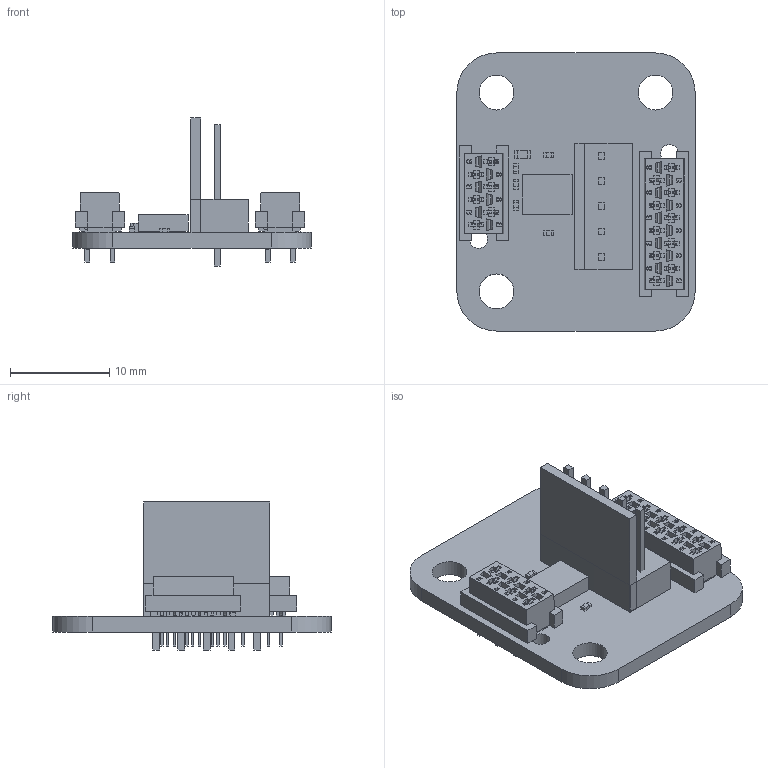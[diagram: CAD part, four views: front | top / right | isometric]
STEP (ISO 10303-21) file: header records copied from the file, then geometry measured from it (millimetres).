
FILE_DESCRIPTION(('Open CASCADE Model'),'2;1');
FILE_NAME('Open CASCADE Shape Model','2018-05-31T11:30:08',('Author'),( 'Open CASCADE'),'Open CASCADE STEP processor 6.8','Open CASCADE 6.8' ,'Unknown');
FILE_SCHEMA(('AUTOMOTIVE_DESIGN { 1 0 10303 214 1 1 1 1 }'));
Length unit declared in the file: millimetre
Products named in the file (38): PCB; Board; PoNET; 6570451072; Extruded; 6570450880; 6570450688; 6316397120; R2; 6316401344; 6316401152; R1; PoExtension; c-0215079-10-v-3d; EXT; c-0215079-06-v-3d; IC2; 6570450496; C13; 6316395392; 6316395200; C12; 6316400384; 6316400192; R3; 6316398656; R4
Assembly tree (51 placements, depth 4):
  PCB
    Board
    PoNET
      6570451072  x4
        Extruded
      6570450880
        Extruded
      6570450688
        Extruded
      6316397120
        Extruded
    R2
      6316401344
        Extruded
      6316401152  x2
        Extruded
    R1
      6316401344
        Extruded
      6316401152  x2
        Extruded
    PoExtension
      c-0215079-10-v-3d
    EXT
      c-0215079-06-v-3d
    IC2
      6570450496
        Extruded
    C13
      6316395392  x2
        Extruded
      6316395200
        Extruded
    C12
      6316400384  x2
        Extruded
      6316400192
        Extruded
    R3
      6316398656  x2
        Extruded
      6316401344
        Extruded
    R4
      6316398656  x2
        Extruded
      6316401344
        Extruded
Bounding box: 24 x 28 x 14.9 mm (x, y, z)
Volume: 1770.3 mm3; surface area: 3191.6 mm2
Topology: 29 solids, 29 shells, 1508 faces, 3998 edges, 2644 vertices
Faces by surface type: plane 1366, cylinder 142
Full cylindrical faces by diameter (mm): 0.85 x16, 1 x5, 1.8 x2, 3.5 x3
Entity records: 44848 total; most frequent: CARTESIAN_POINT 7840, ORIENTED_EDGE 7660, DIRECTION 7066, EDGE_CURVE 3830, LINE 3546, VECTOR 3546, VERTEX_POINT 2532, AXIS2_PLACEMENT_3D 1760
